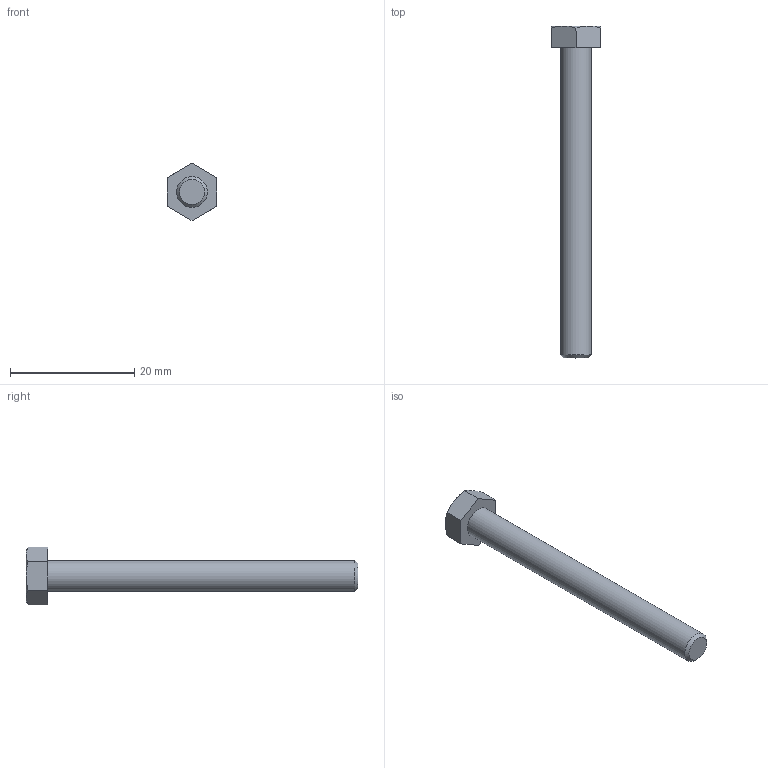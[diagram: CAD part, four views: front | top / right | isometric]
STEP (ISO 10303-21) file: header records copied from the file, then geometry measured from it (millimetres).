
FILE_DESCRIPTION(/* description */ (''),/* implementation_level */ '2;1');
FILE_NAME(/* name */ 'C:\Users\unitec\Documents\Inventor\各種小物\JIS\JIS B 1180 六角ボルト 等級C\hbc5\M5x50.stp',/* time_stamp */ '2015-02-13T14:48:54+09:00',/* author */ ('unitec'),/* organization */ (''),/* preprocessor_version */ 'ST-DEVELOPER v15.2',/* originating_system */ 'Autodesk Inventor 2014',/* authorisation */ '');
FILE_SCHEMA (('AUTOMOTIVE_DESIGN { 1 0 10303 214 3 1 1 }'));
Length unit declared in the file: millimetre
Products named in the file (1): M5x50
Bounding box: 8 x 53.5 x 9.24 mm (x, y, z)
Volume: 1173.4 mm3; surface area: 985.8 mm2
Topology: 1 solids, 1 shells, 17 faces, 35 edges, 21 vertices
Faces by surface type: plane 9, cone 7, cylinder 1
Full cylindrical faces by diameter (mm): 5 x1
Entity records: 441 total; most frequent: CARTESIAN_POINT 96, ORIENTED_EDGE 66, DIRECTION 66, EDGE_CURVE 33, AXIS2_PLACEMENT_3D 27, VERTEX_POINT 21, EDGE_LOOP 20, ADVANCED_FACE 17
